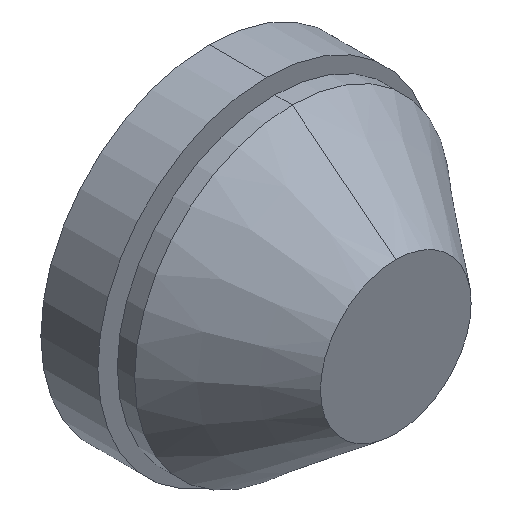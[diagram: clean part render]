
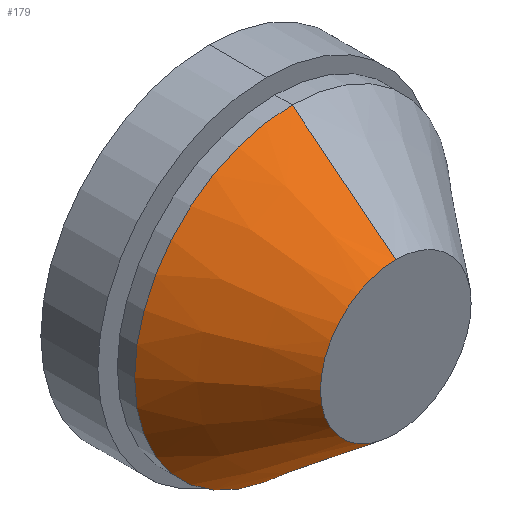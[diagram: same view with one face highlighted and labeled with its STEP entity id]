
A CAD part, isometric view. The second image highlights one B-rep face of the part: STEP entity #179.
In plain terms, the highlighted conical face has half-angle 38.442 degrees and reference radius 8.724 mm.
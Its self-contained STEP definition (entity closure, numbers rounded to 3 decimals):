
#3 = EDGE_LOOP ( 'NONE', ( #51, #49, #30, #19 ) ) ;
#11 = VERTEX_POINT ( 'NONE', #208 ) ;
#13 = VERTEX_POINT ( 'NONE', #204 ) ;
#19 = ORIENTED_EDGE ( 'NONE', *, *, #270, .T. ) ;
#30 = ORIENTED_EDGE ( 'NONE', *, *, #268, .T. ) ;
#31 = VERTEX_POINT ( 'NONE', #205 ) ;
#49 = ORIENTED_EDGE ( 'NONE', *, *, #269, .F. ) ;
#51 = ORIENTED_EDGE ( 'NONE', *, *, #267, .F. ) ;
#65 = CARTESIAN_POINT ( 'NONE',  ( 0., 0., -8.724 ) ) ;
#123 = CARTESIAN_POINT ( 'NONE',  ( 0., 0., 0. ) ) ;
#124 = DIRECTION ( 'NONE',  ( 0., 1., 0. ) ) ;
#125 = DIRECTION ( 'NONE',  ( 0., 0., 1. ) ) ;
#130 = VERTEX_POINT ( 'NONE', #65 ) ;
#179 = ADVANCED_FACE ( 'NONE', ( #384 ), #285, .T. ) ;
#204 = CARTESIAN_POINT ( 'NONE',  ( 0., 12., 18.25 ) ) ;
#205 = CARTESIAN_POINT ( 'NONE',  ( 0., 12., -18.25 ) ) ;
#208 = CARTESIAN_POINT ( 'NONE',  ( 0., 0., 8.724 ) ) ;
#216 = DIRECTION ( 'NONE',  ( 0., 0.783, 0.622 ) ) ;
#219 = DIRECTION ( 'NONE',  ( 0., 0.783, -0.622 ) ) ;
#223 = DIRECTION ( 'NONE',  ( 0., 0., -1. ) ) ;
#224 = DIRECTION ( 'NONE',  ( 0., -1., 0. ) ) ;
#225 = CARTESIAN_POINT ( 'NONE',  ( 0., 12., 0. ) ) ;
#226 = DIRECTION ( 'NONE',  ( 0., 0., -1. ) ) ;
#227 = CARTESIAN_POINT ( 'NONE',  ( 0., 0., 8.724 ) ) ;
#229 = CARTESIAN_POINT ( 'NONE',  ( 0., 0., -8.724 ) ) ;
#230 = DIRECTION ( 'NONE',  ( 0., -1., 0. ) ) ;
#231 = CARTESIAN_POINT ( 'NONE',  ( 0., 0., 0. ) ) ;
#267 = EDGE_CURVE ( 'NONE', #130, #31, #305, .T. ) ;
#268 = EDGE_CURVE ( 'NONE', #11, #13, #308, .T. ) ;
#269 = EDGE_CURVE ( 'NONE', #11, #130, #307, .T. ) ;
#270 = EDGE_CURVE ( 'NONE', #13, #31, #311, .T. ) ;
#285 = CONICAL_SURFACE ( 'NONE', #356, 8.724, 0.671 ) ;
#305 = LINE ( 'NONE', #229, #309 ) ;
#307 = CIRCLE ( 'NONE', #368, 8.724 ) ;
#308 = LINE ( 'NONE', #227, #310 ) ;
#309 = VECTOR ( 'NONE', #219, 1000. ) ;
#310 = VECTOR ( 'NONE', #216, 1000. ) ;
#311 = CIRCLE ( 'NONE', #369, 18.25 ) ;
#356 = AXIS2_PLACEMENT_3D ( 'NONE', #123, #124, #125 ) ;
#368 = AXIS2_PLACEMENT_3D ( 'NONE', #231, #230, #226 ) ;
#369 = AXIS2_PLACEMENT_3D ( 'NONE', #225, #224, #223 ) ;
#384 = FACE_OUTER_BOUND ( 'NONE', #3, .T. ) ;
